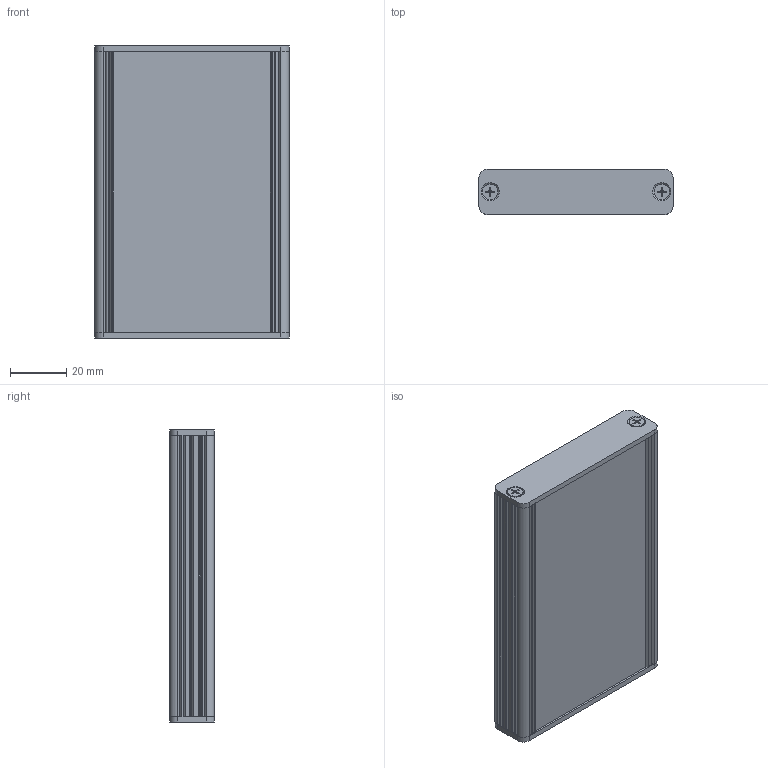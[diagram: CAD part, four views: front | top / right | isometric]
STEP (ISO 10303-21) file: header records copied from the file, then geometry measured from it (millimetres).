
FILE_DESCRIPTION((''),'2;1');
FILE_NAME('C:\Dokumente und Einstellungen\Lochen\Desktop\AKG\AKG_69_16_100.stp','2015-01-15T13:47:13',('Lochen'),(''),'Autodesk Inventor 2012','Autodesk Inventor 2012','');
FILE_SCHEMA(('AUTOMOTIVE_DESIGN { 1 0 10303 214 1 1 1 1 }'));
Length unit declared in the file: millimetre
Products named in the file (4): 001037225; 001032093; L0015SGD000006A; DIN EN ISO 7046-1 H M3 x 10 - 4.8 - H
Assembly tree (8 placements, depth 2):
  001037225
    001032093  x2
    L0015SGD000006A  x2
    DIN EN ISO 7046-1 H M3 x 10 - 4.8 - H  x4
Bounding box: 69.1 x 16.02 x 104 mm (x, y, z)
Volume: 31810.1 mm3; surface area: 43567.8 mm2
Topology: 8 solids, 8 shells, 342 faces, 950 edges, 624 vertices
Faces by surface type: plane 136, cylinder 134, cone 52, torus 20
Full cylindrical faces by diameter (mm): 2.693 x4, 3 x4, 3.4 x4, 5.5 x4
Entity records: 4760 total; most frequent: CARTESIAN_POINT 920, DIRECTION 817, ORIENTED_EDGE 766, EDGE_CURVE 383, AXIS2_PLACEMENT_3D 301, VERTEX_POINT 260, VECTOR 215, LINE 215
